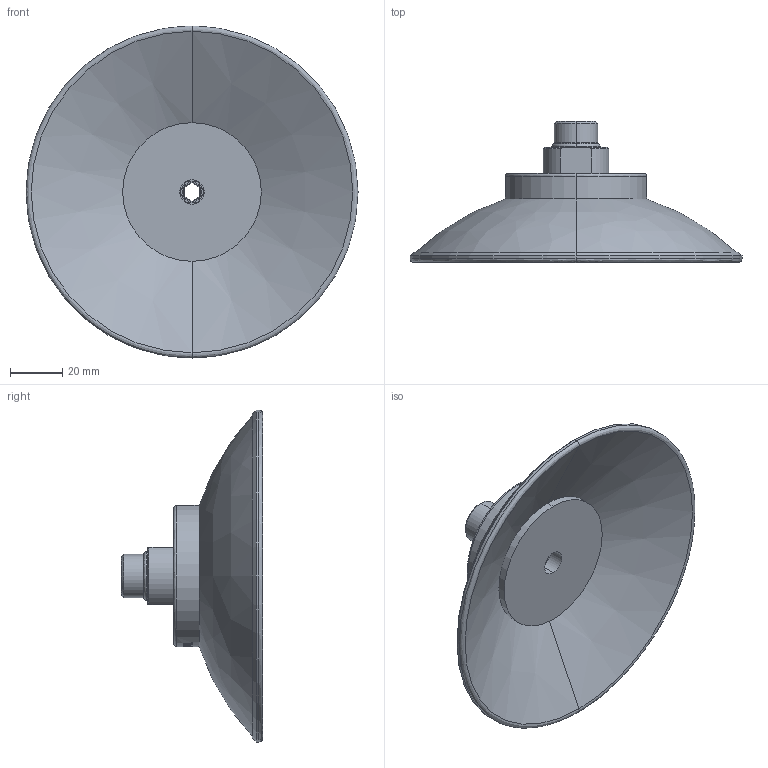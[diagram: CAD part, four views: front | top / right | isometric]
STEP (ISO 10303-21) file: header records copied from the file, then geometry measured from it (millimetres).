
FILE_DESCRIPTION (( 'STEP AP214' ), '1' );
FILE_NAME ('SAF-125-G3-8AG.STEP', '2023-03-07T01:45:58', ( 'Windows User' ), ( 'P R C' ), 'SwSTEP 2.0', 'SolidWorks 2019', '' );
FILE_SCHEMA (( 'AUTOMOTIVE_DESIGN' ));
Length unit declared in the file: millimetre
Products named in the file (1): SAF-125-G3-8AG
Bounding box: 127 x 54 x 127 mm (x, y, z)
Volume: 121314.1 mm3; surface area: 35591.6 mm2
Topology: 3 solids, 3 shells, 132 faces, 313 edges, 200 vertices
Faces by surface type: bspline 43, plane 40, cylinder 33, cone 16
Entity records: 15165 total; most frequent: CARTESIAN_POINT 10775, ORIENTED_EDGE 626, DIRECTION 539, EDGE_CURVE 313, AXIS2_PLACEMENT_3D 204, VERTEX_POINT 200, EDGE_LOOP 151, UNCERTAINTY_MEASURE_WITH_UNIT 137
